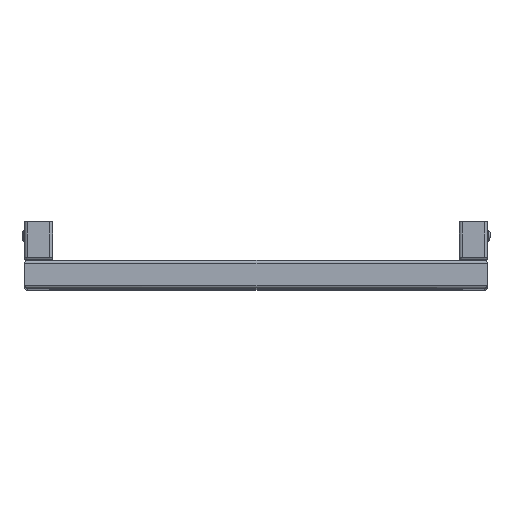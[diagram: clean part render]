
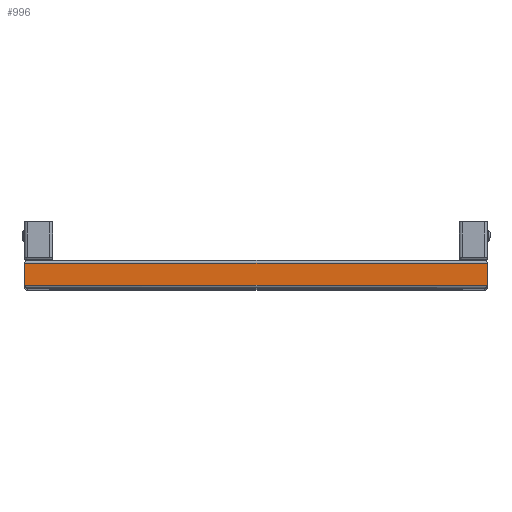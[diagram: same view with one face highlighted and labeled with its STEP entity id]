
A CAD part, top view. The second image highlights one B-rep face of the part: STEP entity #996.
In plain terms, the highlighted planar face has unit normal (0, 0, 1).
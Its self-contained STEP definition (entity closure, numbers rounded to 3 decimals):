
#747=CARTESIAN_POINT('',(250.,27.0,1310.0));
#748=VERTEX_POINT('',#747);
#778=CARTESIAN_POINT('',(-250.,27.0,1310.0));
#779=VERTEX_POINT('',#778);
#787=CARTESIAN_POINT('',(-250.,27.0,1310.0));
#788=DIRECTION('',(1.0,0.0,0.0));
#789=VECTOR('',#788,500.);
#790=LINE('',#787,#789);
#791=EDGE_CURVE('',#779,#748,#790,.T.);
#838=CARTESIAN_POINT('',(250.,3.0,1310.0));
#839=VERTEX_POINT('',#838);
#840=CARTESIAN_POINT('',(250.,3.0,1310.0));
#841=DIRECTION('',(0.0,1.0,0.0));
#842=VECTOR('',#841,24.0);
#843=LINE('',#840,#842);
#844=EDGE_CURVE('',#839,#748,#843,.T.);
#861=CARTESIAN_POINT('',(-250.,3.0,1310.0));
#862=VERTEX_POINT('',#861);
#863=CARTESIAN_POINT('',(250.,3.0,1310.0));
#864=DIRECTION('',(-1.0,0.0,0.0));
#865=VECTOR('',#864,500.);
#866=LINE('',#863,#865);
#867=EDGE_CURVE('',#839,#862,#866,.T.);
#976=CARTESIAN_POINT('',(-250.,3.0,1310.0));
#977=DIRECTION('',(0.0,1.0,0.0));
#978=VECTOR('',#977,24.0);
#979=LINE('',#976,#978);
#980=EDGE_CURVE('',#862,#779,#979,.T.);
#985=CARTESIAN_POINT('',(250.,0.0,1310.0));
#986=DIRECTION('',(0.0,0.0,1.0));
#987=DIRECTION('',(1.0,0.0,0.0));
#988=AXIS2_PLACEMENT_3D('',#985,#986,#987);
#989=PLANE('',#988);
#990=ORIENTED_EDGE('',*,*,#791,.F.);
#991=ORIENTED_EDGE('',*,*,#980,.F.);
#992=ORIENTED_EDGE('',*,*,#867,.F.);
#993=ORIENTED_EDGE('',*,*,#844,.T.);
#994=EDGE_LOOP('',(#990,#991,#992,#993));
#995=FACE_OUTER_BOUND('',#994,.T.);
#996=ADVANCED_FACE('',(#995),#989,.T.);
